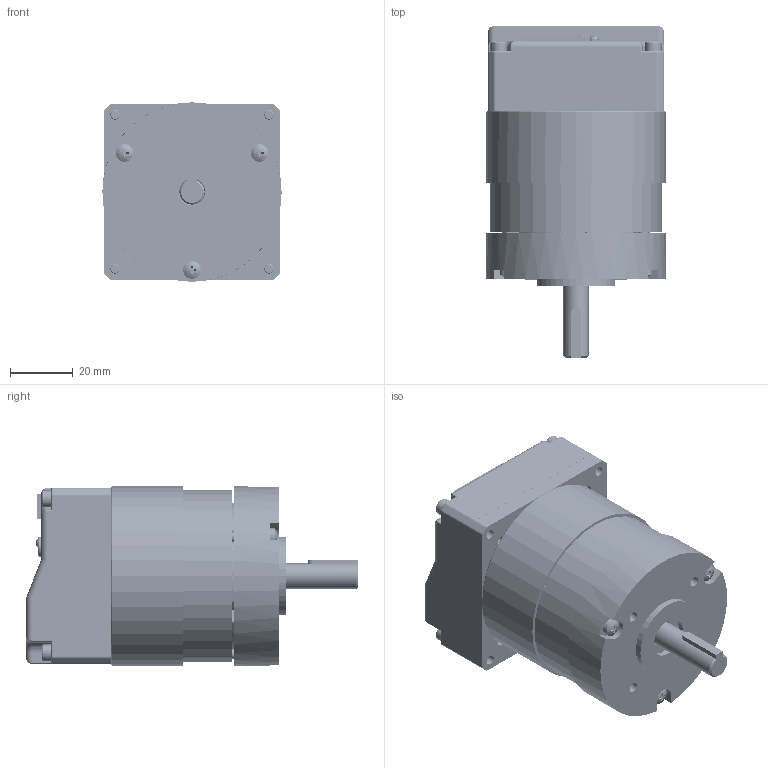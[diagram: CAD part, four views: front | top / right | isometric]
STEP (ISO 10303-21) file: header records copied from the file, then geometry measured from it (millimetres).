
FILE_DESCRIPTION((''),'2;1');
FILE_NAME('DM4D1_NEMA23_ASM','2021-01-27T10:53:47',('Matteo Maccalli'),(''),'CREO PARAMETRIC BY PTC INC, 2019344','CREO PARAMETRIC BY PTC INC, 2019344','');
FILE_SCHEMA(('AUTOMOTIVE_DESIGN { 1 0 10303 214 1 1 1 1 }'));
Length unit declared in the file: millimetre
Products named in the file (81): CONTROFLANGIA_DM4D1; MC-01040; OPEN_CASCADE_STEP_TRANSLATOR_6_; BOARD_ASM; 878325122; CN6_ASM; USER_LIBRARY-LQFP64_GRID_0-6030; USER_LIBRARY-LQFP64_GRID_0-6795; LQFP64_GRID_0_5_ASM; IC403_ASM; _FTS-105-01-F-DV-P-TR_BODY; _FTS-105-01-F-DV-P-TR_PINS1; _FTS-105-01-F-DV-P-TR_PINS2; FTS-105-01-F-DV-P-TR_1_ASM_ASM; FTS-105-01-F-DV-P-TR_ASM; J402_ASM; LED_0805_1; LED400_ASM; LED_0805; LED401_ASM; PG-DSO-8-7_1; PG-DSO-8-7_2; PG-DSO-8-7_3; PG-DSO-8-7_4; PG-DSO-8-7_5; PG-DSO-8-7_6; PG-DSO-8-7_7; PG-DSO-8-7_8; PG-DSO-8-7_9; PG-DSO-8-7_10; PG-DSO-8-7_11; PG-DSO-8-7_12; PG-DSO-8-7_13; PG-DSO-8-7_14; PG-DSO-8-7_15; PG-DSO-8-7_16; PG-DSO-8-7_17; PG-DSO-8-7_18; PG-DSO-8-7_19; PG-DSO-8-7_20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
Assembly tree (151 placements, depth 8):
  DM4D1_NEMA23_ASM
    CONTROFLANGIA_DM4D1
    MC-01040
    ASM0003_ASM
      PCB_ASM
        BOARD_ASM
          OPEN_CASCADE_STEP_TRANSLATOR_6_
        CN6_ASM
          878325122
        IC403_ASM
          LQFP64_GRID_0_5_ASM
            USER_LIBRARY-LQFP64_GRID_0-6030
            USER_LIBRARY-LQFP64_GRID_0-6795  x64
        J402_ASM
          FTS-105-01-F-DV-P-TR_ASM
            FTS-105-01-F-DV-P-TR_1_ASM_ASM
              _FTS-105-01-F-DV-P-TR_BODY
              _FTS-105-01-F-DV-P-TR_PINS1
              _FTS-105-01-F-DV-P-TR_PINS2
        LED400_ASM
          LED_0805_1
        LED401_ASM
          LED_0805
        U700_ASM
          PG-DSO-8-7_ASM
            PG-DSO-8-7_1
            PG-DSO-8-7_2
            PG-DSO-8-7_3
            PG-DSO-8-7_4
            PG-DSO-8-7_5
            PG-DSO-8-7_6
            PG-DSO-8-7_7
            PG-DSO-8-7_8
            PG-DSO-8-7_9
            PG-DSO-8-7_10
            PG-DSO-8-7_11
            PG-DSO-8-7_12
            PG-DSO-8-7_13
            PG-DSO-8-7_14
            PG-DSO-8-7_15
            PG-DSO-8-7_16
            PG-DSO-8-7_17
            PG-DSO-8-7_18
            PG-DSO-8-7_19
            PG-DSO-8-7_20
            PG-DSO-8-7_21
            PG-DSO-8-7_22
            PG-DSO-8-7_23
            PG-DSO-8-7_24
        W600_ASM
          6859060736_ASM
            EXTRUDED
        CE200_ASM
          SCE-D8_ASM
            SCE-D8_1
            SCE-D8_2
            SCE-D8_3
            SCE-D8_4
            SCE-D8_5
        CN1_ASM
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Bounding box: 57 x 105.6 x 57 mm (x, y, z)
Volume: 32624.8 mm3; surface area: 85959.8 mm2
Topology: 125 solids, 677 shells, 7813 faces, 21971 edges, 14524 vertices
Faces by surface type: plane 3357, cylinder 3186, torus 601, sphere 594, cone 49, bspline 23, extrusion 3
Entity records: 192023 total; most frequent: CARTESIAN_POINT 35780, DIRECTION 27113, ORIENTED_EDGE 23521, EDGE_CURVE 14351, VERTEX_POINT 10627, VECTOR 10033, LINE 10030, AXIS2_PLACEMENT_3D 8540
